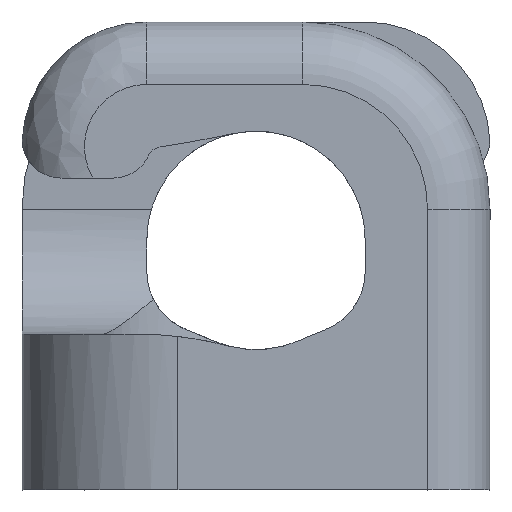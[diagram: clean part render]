
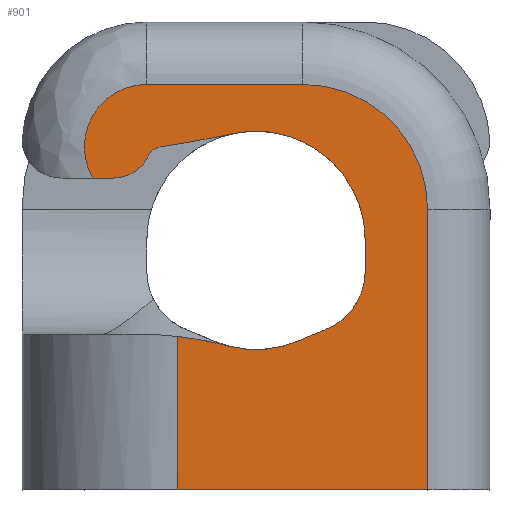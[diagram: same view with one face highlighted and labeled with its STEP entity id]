
A CAD part, left-side view. The second image highlights one B-rep face of the part: STEP entity #901.
In plain terms, the highlighted planar face has unit normal (-1, 0, 0).
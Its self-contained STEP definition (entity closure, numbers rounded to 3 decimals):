
#78=FACE_OUTER_BOUND('',#131,.T.);
#131=EDGE_LOOP('',(#632,#633,#634,#635,#636,#637,#638,#639,#640,#641,#642,
#643,#644,#645,#646,#647));
#182=LINE('',#1368,#244);
#188=LINE('',#1487,#250);
#189=LINE('',#1489,#251);
#190=LINE('',#1493,#252);
#191=LINE('',#1497,#253);
#192=LINE('',#1507,#254);
#244=VECTOR('',#1084,10.);
#250=VECTOR('',#1112,10.);
#251=VECTOR('',#1113,10.);
#252=VECTOR('',#1116,10.);
#253=VECTOR('',#1119,10.);
#254=VECTOR('',#1128,10.);
#309=CIRCLE('',#970,12.);
#313=CIRCLE('',#976,3.5);
#314=CIRCLE('',#978,4.);
#315=CIRCLE('',#979,2.);
#316=CIRCLE('',#980,1.25);
#317=CIRCLE('',#981,0.5);
#318=CIRCLE('',#982,45.);
#319=CIRCLE('',#983,3.5);
#320=CIRCLE('',#984,2.);
#321=CIRCLE('',#985,12.);
#368=VERTEX_POINT('',#1365);
#369=VERTEX_POINT('',#1367);
#375=VERTEX_POINT('',#1387);
#376=VERTEX_POINT('',#1392);
#389=VERTEX_POINT('',#1483);
#390=VERTEX_POINT('',#1488);
#391=VERTEX_POINT('',#1490);
#392=VERTEX_POINT('',#1492);
#393=VERTEX_POINT('',#1494);
#394=VERTEX_POINT('',#1496);
#395=VERTEX_POINT('',#1498);
#396=VERTEX_POINT('',#1500);
#397=VERTEX_POINT('',#1502);
#398=VERTEX_POINT('',#1504);
#399=VERTEX_POINT('',#1506);
#400=VERTEX_POINT('',#1508);
#460=EDGE_CURVE('',#368,#369,#182,.T.);
#467=EDGE_CURVE('',#375,#376,#309,.T.);
#483=EDGE_CURVE('',#389,#376,#313,.T.);
#485=EDGE_CURVE('',#369,#375,#188,.T.);
#486=EDGE_CURVE('',#390,#368,#189,.T.);
#487=EDGE_CURVE('',#391,#390,#314,.T.);
#488=EDGE_CURVE('',#392,#391,#190,.T.);
#489=EDGE_CURVE('',#393,#392,#315,.T.);
#490=EDGE_CURVE('',#394,#393,#191,.T.);
#491=EDGE_CURVE('',#395,#394,#316,.T.);
#492=EDGE_CURVE('',#395,#396,#317,.T.);
#493=EDGE_CURVE('',#397,#396,#318,.T.);
#494=EDGE_CURVE('',#397,#398,#319,.T.);
#495=EDGE_CURVE('',#398,#399,#192,.T.);
#496=EDGE_CURVE('',#400,#399,#320,.T.);
#497=EDGE_CURVE('',#389,#400,#321,.T.);
#632=ORIENTED_EDGE('',*,*,#467,.F.);
#633=ORIENTED_EDGE('',*,*,#485,.F.);
#634=ORIENTED_EDGE('',*,*,#460,.F.);
#635=ORIENTED_EDGE('',*,*,#486,.F.);
#636=ORIENTED_EDGE('',*,*,#487,.F.);
#637=ORIENTED_EDGE('',*,*,#488,.F.);
#638=ORIENTED_EDGE('',*,*,#489,.F.);
#639=ORIENTED_EDGE('',*,*,#490,.F.);
#640=ORIENTED_EDGE('',*,*,#491,.F.);
#641=ORIENTED_EDGE('',*,*,#492,.T.);
#642=ORIENTED_EDGE('',*,*,#493,.F.);
#643=ORIENTED_EDGE('',*,*,#494,.T.);
#644=ORIENTED_EDGE('',*,*,#495,.T.);
#645=ORIENTED_EDGE('',*,*,#496,.F.);
#646=ORIENTED_EDGE('',*,*,#497,.F.);
#647=ORIENTED_EDGE('',*,*,#483,.T.);
#882=PLANE('',#977);
#901=ADVANCED_FACE('',(#78),#882,.F.);
#970=AXIS2_PLACEMENT_3D('',#1393,#1093,#1094);
#976=AXIS2_PLACEMENT_3D('',#1484,#1107,#1108);
#977=AXIS2_PLACEMENT_3D('',#1486,#1110,#1111);
#978=AXIS2_PLACEMENT_3D('',#1491,#1114,#1115);
#979=AXIS2_PLACEMENT_3D('',#1495,#1117,#1118);
#980=AXIS2_PLACEMENT_3D('',#1499,#1120,#1121);
#981=AXIS2_PLACEMENT_3D('',#1501,#1122,#1123);
#982=AXIS2_PLACEMENT_3D('',#1503,#1124,#1125);
#983=AXIS2_PLACEMENT_3D('',#1505,#1126,#1127);
#984=AXIS2_PLACEMENT_3D('',#1509,#1129,#1130);
#985=AXIS2_PLACEMENT_3D('',#1510,#1131,#1132);
#1084=DIRECTION('',(0.,1.,0.));
#1093=DIRECTION('center_axis',(1.,0.,0.));
#1094=DIRECTION('ref_axis',(0.,-0.127,0.992));
#1107=DIRECTION('center_axis',(1.,0.,0.));
#1108=DIRECTION('ref_axis',(0.,1.,0.));
#1110=DIRECTION('center_axis',(1.,0.,0.));
#1111=DIRECTION('ref_axis',(0.,1.,0.));
#1112=DIRECTION('',(0.,0.,1.));
#1113=DIRECTION('',(0.,0.,-1.));
#1114=DIRECTION('center_axis',(1.,0.,0.));
#1115=DIRECTION('ref_axis',(0.,-0.707,0.707));
#1116=DIRECTION('',(0.,-1.,0.));
#1117=DIRECTION('center_axis',(1.,0.,0.));
#1118=DIRECTION('ref_axis',(0.,0.693,0.721));
#1119=DIRECTION('',(0.,1.,0.));
#1120=DIRECTION('center_axis',(1.,0.,0.));
#1121=DIRECTION('ref_axis',(0.,-0.867,-0.498));
#1122=DIRECTION('center_axis',(1.,0.,0.));
#1123=DIRECTION('ref_axis',(0.,0.967,0.255));
#1124=DIRECTION('center_axis',(1.,0.,0.));
#1125=DIRECTION('ref_axis',(0.,0.154,0.988));
#1126=DIRECTION('center_axis',(1.,0.,0.));
#1127=DIRECTION('ref_axis',(0.,1.,0.));
#1128=DIRECTION('',(0.,0.,-1.));
#1129=DIRECTION('center_axis',(-1.,0.,0.));
#1130=DIRECTION('ref_axis',(0.,-0.707,-0.707));
#1131=DIRECTION('center_axis',(1.,0.,0.));
#1132=DIRECTION('ref_axis',(0.,0.384,0.923));
#1365=CARTESIAN_POINT('',(0.,2.,-1.));
#1367=CARTESIAN_POINT('',(0.,10.,-1.));
#1368=CARTESIAN_POINT('',(0.,10.,-1.));
#1387=CARTESIAN_POINT('',(0.,10.,3.917));
#1392=CARTESIAN_POINT('',(0.,8.382,3.613));
#1393=CARTESIAN_POINT('Origin',(0.,11.405,-8.));
#1483=CARTESIAN_POINT('',(0.,6.048,3.816));
#1484=CARTESIAN_POINT('Origin',(0.,7.5,7.));
#1486=CARTESIAN_POINT('Origin',(0.,7.498,7.));
#1487=CARTESIAN_POINT('',(0.,10.,0.));
#1488=CARTESIAN_POINT('',(0.,2.,8.));
#1489=CARTESIAN_POINT('',(0.,2.,0.));
#1490=CARTESIAN_POINT('',(0.,6.,12.));
#1491=CARTESIAN_POINT('Origin',(0.,6.,8.));
#1492=CARTESIAN_POINT('',(0.,11.,12.));
#1493=CARTESIAN_POINT('',(0.,9.249,12.));
#1494=CARTESIAN_POINT('',(0.,12.732,9.));
#1495=CARTESIAN_POINT('Origin',(0.,11.,10.));
#1496=CARTESIAN_POINT('',(0.,12.067,9.));
#1497=CARTESIAN_POINT('',(0.,12.067,9.));
#1498=CARTESIAN_POINT('',(0.,10.983,9.628));
#1499=CARTESIAN_POINT('Origin',(0.,12.067,10.25));
#1500=CARTESIAN_POINT('',(0.,10.577,9.994));
#1501=CARTESIAN_POINT('Origin',(0.,10.5,9.5));
#1502=CARTESIAN_POINT('',(0.,8.221,10.425));
#1503=CARTESIAN_POINT('Origin',(0.,17.492,54.46));
#1504=CARTESIAN_POINT('',(0.,4.,7.));
#1505=CARTESIAN_POINT('Origin',(0.,7.5,7.));
#1506=CARTESIAN_POINT('',(0.,4.,6.));
#1507=CARTESIAN_POINT('',(0.,4.,7.));
#1508=CARTESIAN_POINT('',(0.,5.295,4.128));
#1509=CARTESIAN_POINT('Origin',(0.,6.,6.));
#1510=CARTESIAN_POINT('Origin',(0.,1.068,-7.103));
